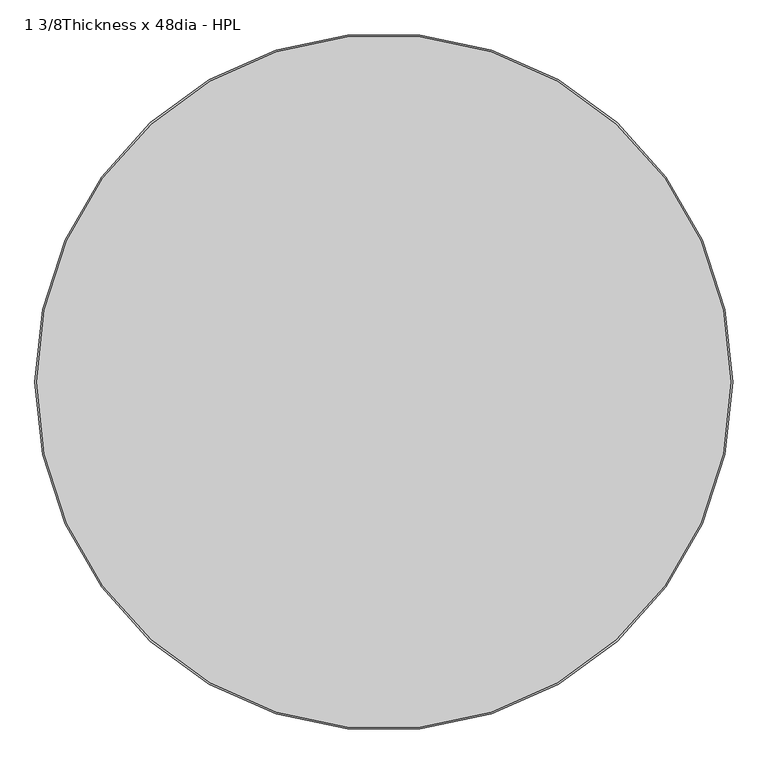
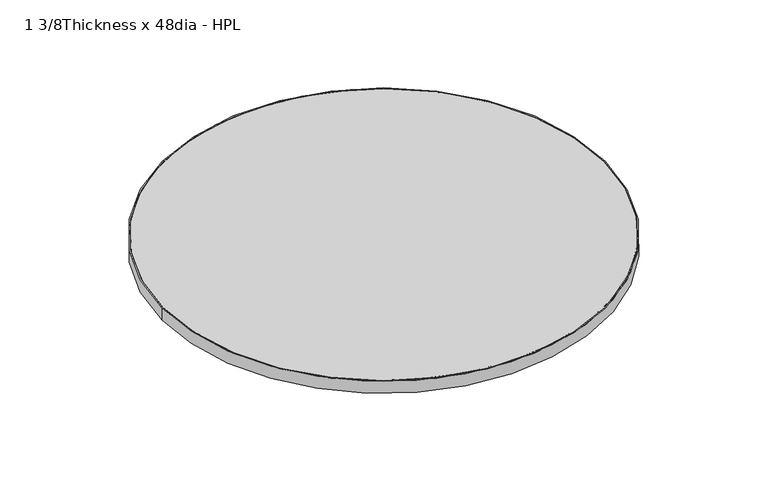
"""IFC4 building model written with IfcOpenShell, lengths in millimetres: furniture geometry, Steelcase - Groupwork - Table - Top - Round : 1 3/8Thickness x 48dia - HPL."""

from ifc_helpers import new_model, si_unit, point, frame, origin, origin_2d, place, context, project, spatial, circle_curve, trimmed, segment, composite_curve, outline, extrude, source, transform, mapped, element, save


def furniture_1_3_8thickness_x_48dia_hpl_3c3fdf40(model_context):
    return source(origin(), model_context, "Body", "SweptSolid", [
        extrude(outline(composite_curve([segment(trimmed(circle_curve(origin_2d(), 612.648), [point((-612.648, 0.0))], [point((612.648, 0.0))], False, "CARTESIAN"), True, "CONTINUOUS"), segment(trimmed(circle_curve(origin_2d(), 612.648), [point((612.648, 0.0))], [point((-612.648, 0.0))], False, "CARTESIAN"), True, "CONTINUOUS")], self_intersect=False), holes=[composite_curve([segment(trimmed(circle_curve(origin_2d(), 609.6), [point((609.6, 0.0))], [point((-609.6, 0.0))], True, "CARTESIAN"), True, "CONTINUOUS"), segment(trimmed(circle_curve(origin_2d(), 609.6), [point((-609.6, 0.0))], [point((609.6, 0.0))], True, "CARTESIAN"), True, "CONTINUOUS")], self_intersect=False)]), frame((0.0, 0.0, 695.579), z_axis=(0.0, 0.0, 1.0), x_axis=(1.0, 0.0, 0.0)), (0.0, 0.0, 1.0), 35.052),
        extrude(outline(composite_curve([segment(trimmed(circle_curve(origin_2d(), 609.6), [point((-609.6, 0.0))], [point((609.6, 0.0))], False, "CARTESIAN"), True, "CONTINUOUS"), segment(trimmed(circle_curve(origin_2d(), 609.6), [point((609.6, 0.0))], [point((-609.6, 0.0))], False, "CARTESIAN"), True, "CONTINUOUS")], self_intersect=False)), frame((0.0, 0.0, 695.579), z_axis=(0.0, 0.0, 1.0), x_axis=(1.0, 0.0, 0.0)), (0.0, 0.0, 1.0), 35.052),
    ])


if __name__ == "__main__":
    model = new_model("IFC4")
    model_context = context("Model", 3, world=origin())
    ifc_project = project(units=[si_unit("LENGTHUNIT", "METRE", prefix="MILLI")], contexts=[model_context])
    site = spatial("IfcSite", under=ifc_project)
    building = spatial("IfcBuilding", under=site)
    placement = place(None, origin())
    furniture_1_3_8thickness_x_48dia_hpl_shape = furniture_1_3_8thickness_x_48dia_hpl_3c3fdf40(model_context)
    element("IfcFurniture", 1, ObjectType="Steelcase - Groupwork - Table - Top - Round : 1 3/8Thickness x 48dia - HPL", at=placement, inside=building, context=model_context, shape_type="MappedRepresentation", body=[
        mapped(furniture_1_3_8thickness_x_48dia_hpl_shape, transform((0.0, 0.0, 0.0), x_axis=(1.0, 0.0, 0.0), y_axis=(0.0, 1.0, 0.0), z_axis=(0.0, 0.0, 1.0))),
    ])
    save(model, "model.ifc")
